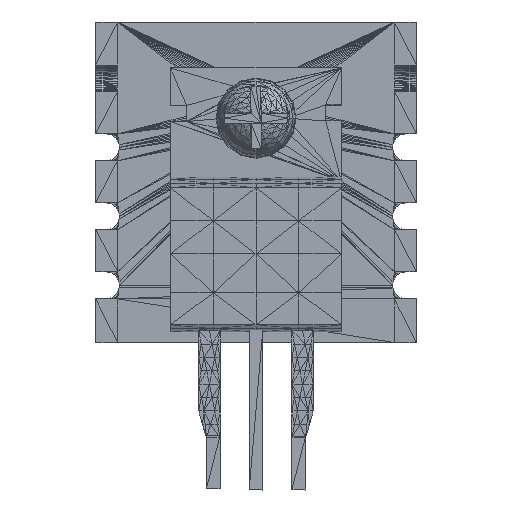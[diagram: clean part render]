
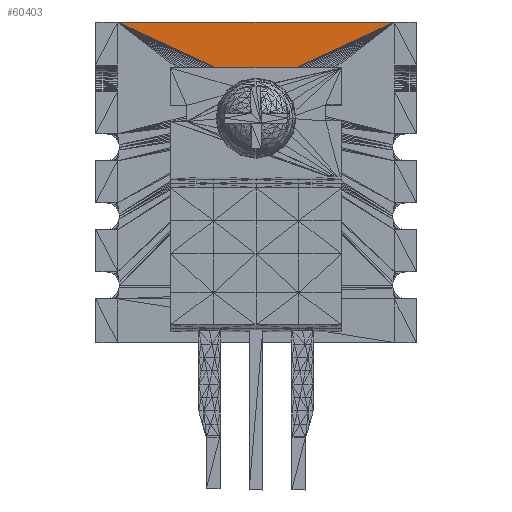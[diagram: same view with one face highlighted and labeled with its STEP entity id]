
A CAD part, front view. The second image highlights one B-rep face of the part: STEP entity #60403.
In plain terms, the highlighted planar face has unit normal (0, -1, -0.001).
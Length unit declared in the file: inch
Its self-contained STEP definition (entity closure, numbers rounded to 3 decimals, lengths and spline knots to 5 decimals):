
#60372=CARTESIAN_POINT('',(0.,0.10933,0.84747));
#60373=DIRECTION('',(0.,1.,0.001));
#60374=DIRECTION('',(1.,0.,0.));
#60375=AXIS2_PLACEMENT_3D('',#60372,#60373,#60374);
#60376=PLANE('',#60375);
#60377=CARTESIAN_POINT('',(0.,0.10933,0.84747));
#60378=VERTEX_POINT('',#60377);
#60379=CARTESIAN_POINT('',(0.32382,0.10924,0.99747));
#60380=VERTEX_POINT('',#60379);
#60381=CARTESIAN_POINT('',(0.,0.10933,0.84747));
#60382=DIRECTION('',(0.907,0.,0.42));
#60383=VECTOR('',#60382,0.35687);
#60384=LINE('',#60381,#60383);
#60385=EDGE_CURVE('',#60378,#60380,#60384,.T.);
#60386=ORIENTED_EDGE('',*,*,#60385,.T.);
#60387=CARTESIAN_POINT('',(-0.32382,0.10924,0.99747));
#60388=VERTEX_POINT('',#60387);
#60389=CARTESIAN_POINT('',(-0.32382,0.10924,0.99747));
#60390=DIRECTION('',(1.,0.,-0.));
#60391=VECTOR('',#60390,0.64764);
#60392=LINE('',#60389,#60391);
#60393=EDGE_CURVE('',#60388,#60380,#60392,.T.);
#60394=ORIENTED_EDGE('',*,*,#60393,.F.);
#60395=CARTESIAN_POINT('',(0.,0.10933,0.84747));
#60396=DIRECTION('',(-0.907,0.,0.42));
#60397=VECTOR('',#60396,0.35687);
#60398=LINE('',#60395,#60397);
#60399=EDGE_CURVE('',#60378,#60388,#60398,.T.);
#60400=ORIENTED_EDGE('',*,*,#60399,.F.);
#60401=EDGE_LOOP('',(#60386,#60394,#60400));
#60402=FACE_BOUND('',#60401,.T.);
#60403=ADVANCED_FACE('',(#60402),#60376,.F.);
